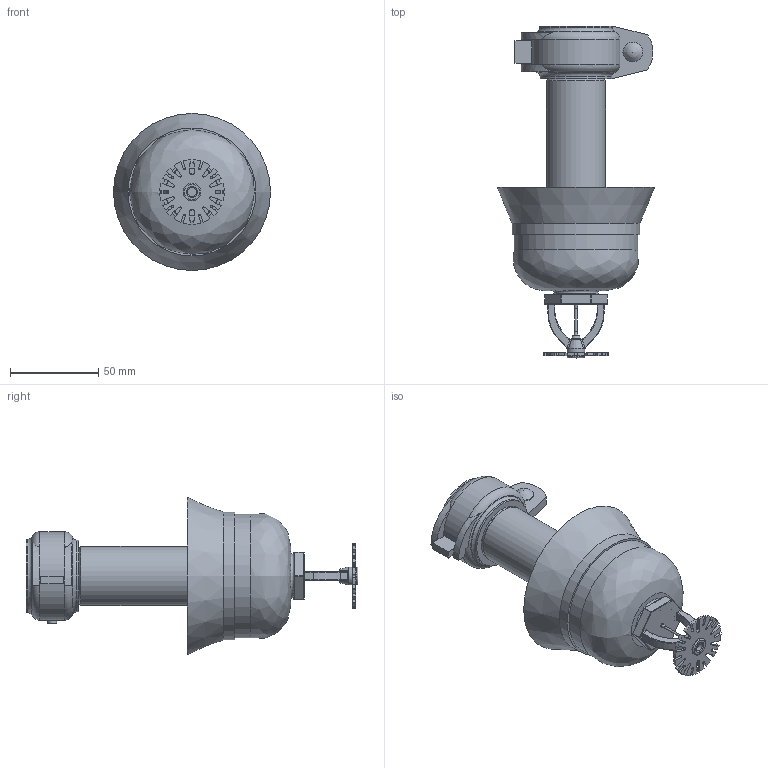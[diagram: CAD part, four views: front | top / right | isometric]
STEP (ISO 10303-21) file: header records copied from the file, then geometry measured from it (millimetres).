
FILE_DESCRIPTION(/* description */ ('VIC SPRINKLER V3613 K5.6 DRY PENDENT STANDARD RESPONSE w/V9 (IGS)'),/* implementation_level */ '2;1');
FILE_NAME(/* name */ 'C:\Users\Public\Documents\Victaulic.Temp\A161\Victaulic_FP-Sprinkler_V3613_DRY_SR_Pendent_V9 (IGS)_EXT_1 (25).stp',/* time_stamp */ '2024-09-24T08:10:49+02:00',/* author */ ('kkamble'),/* organization */ ('Victaulic'),/* preprocessor_version */ 'ST-DEVELOPER v18',/* originating_system */ 'Autodesk Inventor 2020',/* authorisation */ '');
FILE_SCHEMA (('AUTOMOTIVE_DESIGN { 1 0 10303 214 3 1 1 }'));
Length unit declared in the file: inch
Products named in the file (3): V3613_Exteded-01.0; V3613_Extented; V9-01.0x01.0
Assembly tree (2 placements, depth 2):
  V3613_Exteded-01.0
    V3613_Extented
    V9-01.0x01.0
Bounding box: 88.9 x 187.83 x 88.9 mm (x, y, z)
Volume: 90803.6 mm3; surface area: 77852.3 mm2
Topology: 2 solids, 2 shells, 394 faces, 1035 edges, 658 vertices
Faces by surface type: plane 139, cylinder 129, bspline 72, torus 32, sphere 12, cone 10
Full cylindrical faces by diameter (mm): 1.27 x1, 5.08 x3, 6.35 x1, 10.16 x2, 11.112 x1, 20.93 x1, 26.645 x2, 30.226 x1, 33.401 x4, 36.703 x1, 37.465 x1, 45.974 x2, 67.31 x1, 69.85 x2, 72.39 x1
Entity records: 14189 total; most frequent: CARTESIAN_POINT 4025, ORIENTED_EDGE 2060, DIRECTION 2004, EDGE_CURVE 1030, AXIS2_PLACEMENT_3D 777, VERTEX_POINT 658, LINE 450, VECTOR 450
